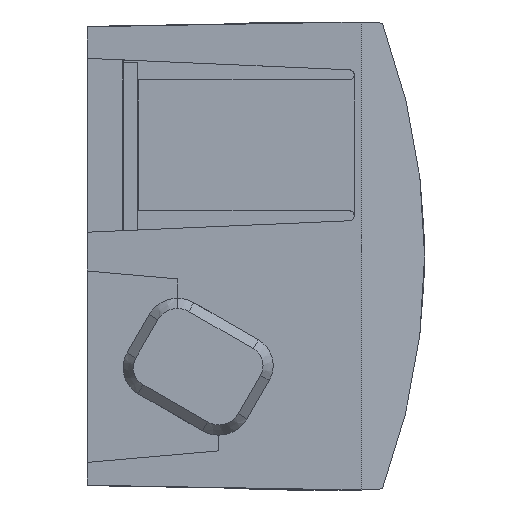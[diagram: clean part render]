
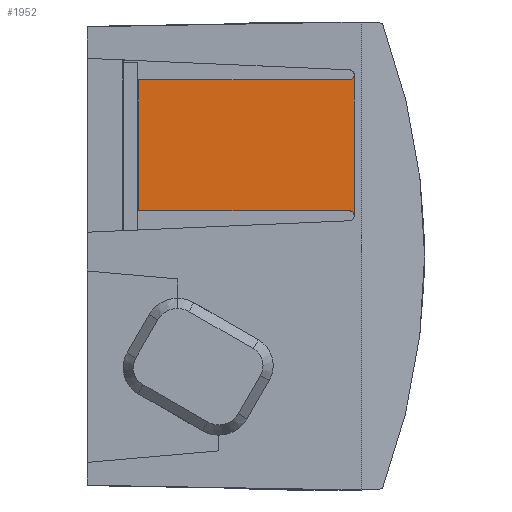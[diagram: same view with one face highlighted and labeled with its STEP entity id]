
A CAD part, front view. The second image highlights one B-rep face of the part: STEP entity #1952.
In plain terms, the highlighted planar face has unit normal (0, -1, 0).
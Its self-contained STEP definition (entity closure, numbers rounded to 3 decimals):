
#94 = CARTESIAN_POINT ( 'NONE',  ( 5.1, 1., 4.5 ) ) ;
#108 = EDGE_CURVE ( 'NONE', #12837, #1531, #5162, .T. ) ;
#235 = CARTESIAN_POINT ( 'NONE',  ( 26.5, 1., 4. ) ) ;
#247 = DIRECTION ( 'NONE',  ( 0., 0., -1. ) ) ;
#377 = CARTESIAN_POINT ( 'NONE',  ( 26.022, 1., 4.5 ) ) ;
#811 = DIRECTION ( 'NONE',  ( 0., 1., 0. ) ) ;
#863 = CARTESIAN_POINT ( 'NONE',  ( 26.022, 1., 4.5 ) ) ;
#932 = VERTEX_POINT ( 'NONE', #12355 ) ;
#1531 = VERTEX_POINT ( 'NONE', #4688 ) ;
#1574 = CARTESIAN_POINT ( 'NONE',  ( 26.022, 1., 17.5 ) ) ;
#1952 = ADVANCED_FACE ( 'NONE', ( #3283 ), #8139, .T. ) ;
#2037 = VECTOR ( 'NONE', #2142, 1000. ) ;
#2120 = ORIENTED_EDGE ( 'NONE', *, *, #12261, .T. ) ;
#2142 = DIRECTION ( 'NONE',  ( 1., 0., 0. ) ) ;
#2314 = AXIS2_PLACEMENT_3D ( 'NONE', #7920, #2906, #12752 ) ;
#2839 = DIRECTION ( 'NONE',  ( -1., 0., 0. ) ) ;
#2906 = DIRECTION ( 'NONE',  ( 0., 1., 0. ) ) ;
#3004 = AXIS2_PLACEMENT_3D ( 'NONE', #15225, #14020, #5598 ) ;
#3283 = FACE_OUTER_BOUND ( 'NONE', #7481, .T. ) ;
#3836 = CIRCLE ( 'NONE', #2314, 0.5 ) ;
#3864 = DIRECTION ( 'NONE',  ( 0., 0., 1. ) ) ;
#4122 = CARTESIAN_POINT ( 'NONE',  ( 5.1, 1., 17.5 ) ) ;
#4283 = ORIENTED_EDGE ( 'NONE', *, *, #12386, .T. ) ;
#4688 = CARTESIAN_POINT ( 'NONE',  ( 5.1, 1., 17.5 ) ) ;
#5162 = LINE ( 'NONE', #1574, #14913 ) ;
#5371 = ORIENTED_EDGE ( 'NONE', *, *, #9532, .T. ) ;
#5598 = DIRECTION ( 'NONE',  ( -1., 0., 0. ) ) ;
#7095 = VECTOR ( 'NONE', #247, 1000. ) ;
#7170 = VERTEX_POINT ( 'NONE', #235 ) ;
#7204 = LINE ( 'NONE', #8727, #10903 ) ;
#7481 = EDGE_LOOP ( 'NONE', ( #11748, #12601, #2120, #4283, #11339, #5371 ) ) ;
#7920 = CARTESIAN_POINT ( 'NONE',  ( 26., 1., 4. ) ) ;
#7945 = LINE ( 'NONE', #863, #2037 ) ;
#8139 = PLANE ( 'NONE',  #3004 ) ;
#8727 = CARTESIAN_POINT ( 'NONE',  ( 26.5, 1., 18. ) ) ;
#9258 = VERTEX_POINT ( 'NONE', #377 ) ;
#9532 = EDGE_CURVE ( 'NONE', #7170, #932, #7204, .T. ) ;
#9873 = CIRCLE ( 'NONE', #13683, 0.5 ) ;
#10640 = EDGE_CURVE ( 'NONE', #932, #12837, #9873, .T. ) ;
#10903 = VECTOR ( 'NONE', #3864, 1000. ) ;
#11339 = ORIENTED_EDGE ( 'NONE', *, *, #14401, .T. ) ;
#11748 = ORIENTED_EDGE ( 'NONE', *, *, #10640, .T. ) ;
#11836 = CARTESIAN_POINT ( 'NONE',  ( 26., 1., 18. ) ) ;
#12201 = VERTEX_POINT ( 'NONE', #94 ) ;
#12261 = EDGE_CURVE ( 'NONE', #1531, #12201, #14949, .T. ) ;
#12355 = CARTESIAN_POINT ( 'NONE',  ( 26.5, 1., 18. ) ) ;
#12386 = EDGE_CURVE ( 'NONE', #12201, #9258, #7945, .T. ) ;
#12601 = ORIENTED_EDGE ( 'NONE', *, *, #108, .T. ) ;
#12752 = DIRECTION ( 'NONE',  ( 1., 0., 0. ) ) ;
#12837 = VERTEX_POINT ( 'NONE', #13642 ) ;
#13642 = CARTESIAN_POINT ( 'NONE',  ( 26.022, 1., 17.5 ) ) ;
#13683 = AXIS2_PLACEMENT_3D ( 'NONE', #11836, #811, #14163 ) ;
#14020 = DIRECTION ( 'NONE',  ( 0., -1., 0. ) ) ;
#14163 = DIRECTION ( 'NONE',  ( 1., 0., 0. ) ) ;
#14401 = EDGE_CURVE ( 'NONE', #9258, #7170, #3836, .T. ) ;
#14913 = VECTOR ( 'NONE', #2839, 1000. ) ;
#14949 = LINE ( 'NONE', #4122, #7095 ) ;
#15225 = CARTESIAN_POINT ( 'NONE',  ( 26., 1., 4. ) ) ;
